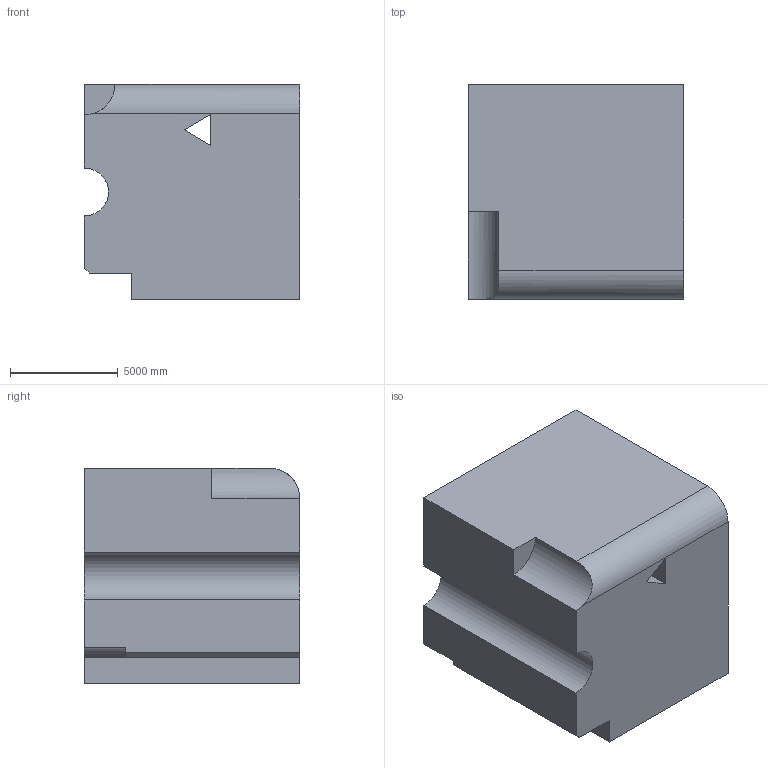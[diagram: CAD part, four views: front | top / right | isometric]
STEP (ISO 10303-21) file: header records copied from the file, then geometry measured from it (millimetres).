
FILE_DESCRIPTION (( 'STEP AP203' ), '1' );
FILE_NAME ('1757.STEP', '2022-08-26T10:34:19', ( 'user' ), ( '' ), 'SwSTEP 2.0', 'SolidWorks 2021', '' );
FILE_SCHEMA (( 'CONFIG_CONTROL_DESIGN' ));
Length unit declared in the file: centimetre
Products named in the file (1): 1757
Bounding box: 10000 x 10000 x 10000 mm (x, y, z)
Volume: 931125881867.2 mm3; surface area: 636337942.6 mm2
Topology: 1 solids, 1 shells, 23 faces, 63 edges, 42 vertices
Faces by surface type: plane 17, cylinder 6
Entity records: 903 total; most frequent: CARTESIAN_POINT 225, ORIENTED_EDGE 126, DIRECTION 121, EDGE_CURVE 63, LINE 51, VECTOR 51, VERTEX_POINT 42, AXIS2_PLACEMENT_3D 35
